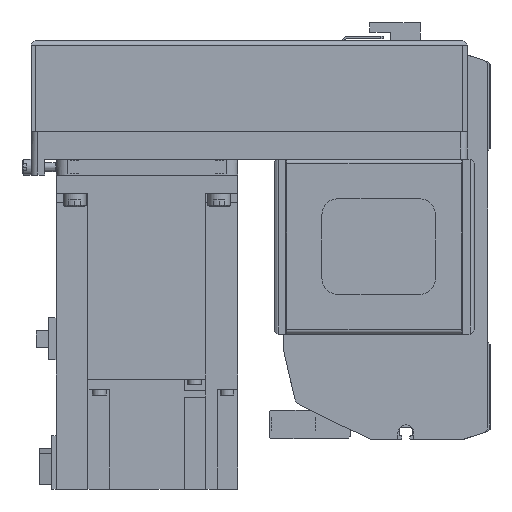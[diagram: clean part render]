
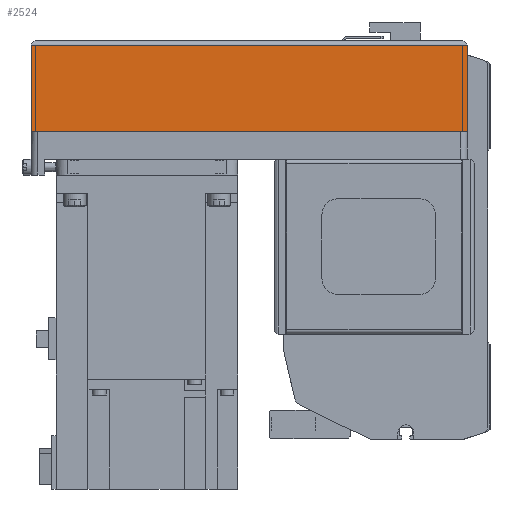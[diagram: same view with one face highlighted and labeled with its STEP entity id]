
A CAD part, left-side view. The second image highlights one B-rep face of the part: STEP entity #2524.
In plain terms, the highlighted planar face has unit normal (-1, 0, 0) as drawn and (0, 1, 0) by its records, which use the part's own axes.
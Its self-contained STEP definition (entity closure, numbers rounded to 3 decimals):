
#2524 = ADVANCED_FACE( '', ( #5513 ), #5514, .T. );
#5513 = FACE_OUTER_BOUND( '', #8945, .T. );
#5514 = PLANE( '', #8946 );
#8945 = EDGE_LOOP( '', ( #16020, #16021, #16022, #16023 ) );
#8946 = AXIS2_PLACEMENT_3D( '', #16024, #16025, #16026 );
#16020 = ORIENTED_EDGE( '', *, *, #22281, .F. );
#16021 = ORIENTED_EDGE( '', *, *, #21411, .F. );
#16022 = ORIENTED_EDGE( '', *, *, #22211, .T. );
#16023 = ORIENTED_EDGE( '', *, *, #22282, .T. );
#16024 = CARTESIAN_POINT( '', ( -192., 40., -50. ) );
#16025 = DIRECTION( '', ( 0., 1., 0. ) );
#16026 = DIRECTION( '', ( 0., 0., 1. ) );
#21411 = EDGE_CURVE( '', #26302, #26304, #26305, .T. );
#22211 = EDGE_CURVE( '', #26302, #23287, #27423, .T. );
#22281 = EDGE_CURVE( '', #26304, #27508, #27509, .T. );
#22282 = EDGE_CURVE( '', #23287, #27508, #27510, .T. );
#23287 = VERTEX_POINT( '', #28718 );
#26302 = VERTEX_POINT( '', #33204 );
#26304 = VERTEX_POINT( '', #33206 );
#26305 = LINE( '', #33207, #33208 );
#27423 = LINE( '', #34910, #34911 );
#27508 = VERTEX_POINT( '', #35043 );
#27509 = LINE( '', #35044, #35045 );
#27510 = LINE( '', #35046, #35047 );
#28718 = CARTESIAN_POINT( '', ( -192., 40., -12.1 ) );
#33204 = CARTESIAN_POINT( '', ( -192., 40., -50. ) );
#33206 = CARTESIAN_POINT( '', ( 0., 40., -50. ) );
#33207 = CARTESIAN_POINT( '', ( -192., 40., -50. ) );
#33208 = VECTOR( '', #38906, 1000. );
#34910 = CARTESIAN_POINT( '', ( -192., 40., -50. ) );
#34911 = VECTOR( '', #39841, 1000. );
#35043 = CARTESIAN_POINT( '', ( 0., 40., -12.1 ) );
#35044 = CARTESIAN_POINT( '', ( 0., 40., -50. ) );
#35045 = VECTOR( '', #39897, 1000. );
#35046 = CARTESIAN_POINT( '', ( -192., 40., -12.1 ) );
#35047 = VECTOR( '', #39898, 1000. );
#38906 = DIRECTION( '', ( 1., 0., 0. ) );
#39841 = DIRECTION( '', ( 0., 0., 1. ) );
#39897 = DIRECTION( '', ( 0., 0., 1. ) );
#39898 = DIRECTION( '', ( 1., 0., 0. ) );
